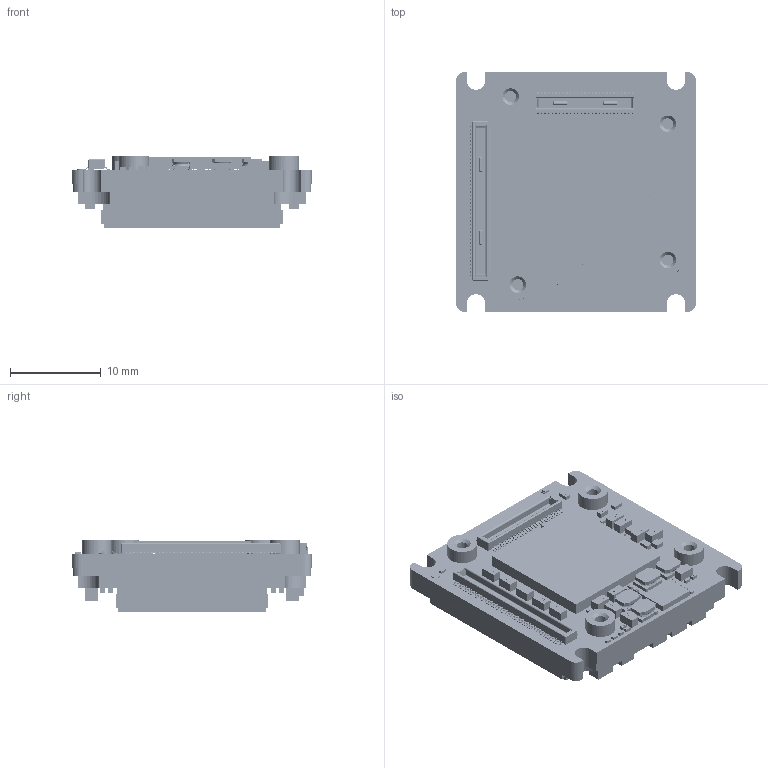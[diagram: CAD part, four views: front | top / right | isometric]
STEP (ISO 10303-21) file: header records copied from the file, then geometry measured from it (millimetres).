
FILE_DESCRIPTION (( 'STEP AP214' ), '1' );
FILE_NAME ('Alvium-Extended-Bare-Board-IMX-990+991-VSWIR.STEP', '2022-12-07T15:38:46', ( '' ), ( '' ), 'SwSTEP 2.0', 'SolidWorks 2021', '' );
FILE_SCHEMA (( 'AUTOMOTIVE_DESIGN' ));
Length unit declared in the file: millimetre
Products named in the file (1): Alvium-Extended-Bare-Board-IMX-990+991-VSWIR
Bounding box: 26.4 x 26.4 x 7.94 mm (x, y, z)
Volume: 3729.3 mm3; surface area: 5018.8 mm2
Topology: 182 solids, 183 shells, 12470 faces, 31458 edges, 20500 vertices
Faces by surface type: plane 6579, bspline 4603, cylinder 1208, torus 40, cone 24, sphere 16
Entity records: 773727 total; most frequent: CARTESIAN_POINT 365497, ORIENTED_EDGE 62868, DIRECTION 40342, EDGE_CURVE 31434, VERTEX_POINT 20500, LINE 19660, VECTOR 19660, EDGE_LOOP 13650
